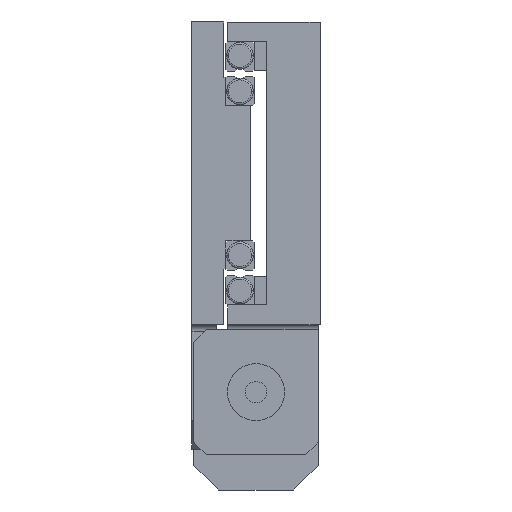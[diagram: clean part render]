
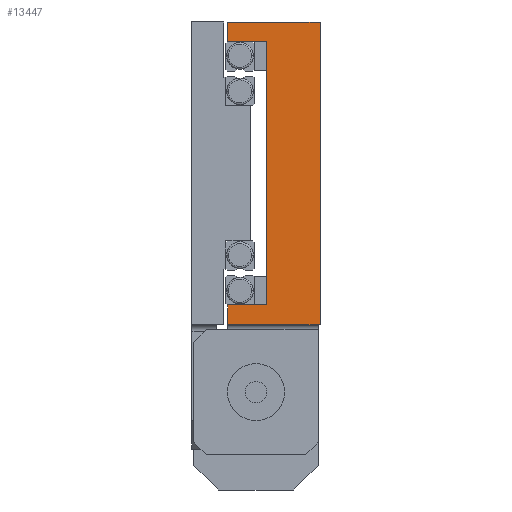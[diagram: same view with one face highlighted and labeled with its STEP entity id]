
A CAD part, left-side view. The second image highlights one B-rep face of the part: STEP entity #13447.
In plain terms, the highlighted planar face has unit normal (-1, 0, 0).
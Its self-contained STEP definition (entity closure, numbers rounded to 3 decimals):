
#642 = CARTESIAN_POINT ( 'NONE',  ( -177.5, 18.5, -37. ) ) ;
#782 = DIRECTION ( 'NONE',  ( 1., 0., 0. ) ) ;
#1087 = DIRECTION ( 'NONE',  ( 0., 1., 0. ) ) ;
#1136 = ORIENTED_EDGE ( 'NONE', *, *, #10215, .F. ) ;
#1220 = VECTOR ( 'NONE', #8872, 1000. ) ;
#1602 = CARTESIAN_POINT ( 'NONE',  ( -177.5, 18.5, 37. ) ) ;
#1604 = ORIENTED_EDGE ( 'NONE', *, *, #16335, .F. ) ;
#1619 = VERTEX_POINT ( 'NONE', #3015 ) ;
#2497 = LINE ( 'NONE', #642, #23251 ) ;
#2623 = FACE_OUTER_BOUND ( 'NONE', #13992, .T. ) ;
#2933 = LINE ( 'NONE', #12683, #6353 ) ;
#2942 = CARTESIAN_POINT ( 'NONE',  ( -177.5, 26., 37. ) ) ;
#3015 = CARTESIAN_POINT ( 'NONE',  ( -177.5, 0., 42.5 ) ) ;
#3198 = CARTESIAN_POINT ( 'NONE',  ( -177.5, 0., 42.5 ) ) ;
#3417 = DIRECTION ( 'NONE',  ( 0., 0., 1. ) ) ;
#4394 = VECTOR ( 'NONE', #21723, 1000. ) ;
#4806 = EDGE_CURVE ( 'NONE', #21599, #19144, #19644, .T. ) ;
#4971 = ORIENTED_EDGE ( 'NONE', *, *, #24276, .T. ) ;
#5980 = VECTOR ( 'NONE', #3417, 1000. ) ;
#6353 = VECTOR ( 'NONE', #1087, 1000. ) ;
#7487 = EDGE_CURVE ( 'NONE', #19166, #23849, #2933, .T. ) ;
#7771 = CARTESIAN_POINT ( 'NONE',  ( -177.5, 15., -29. ) ) ;
#7943 = CARTESIAN_POINT ( 'NONE',  ( -177.5, 26., 42.5 ) ) ;
#8073 = EDGE_CURVE ( 'NONE', #19144, #1619, #18125, .T. ) ;
#8168 = DIRECTION ( 'NONE',  ( 0., 0., -1. ) ) ;
#8566 = LINE ( 'NONE', #18017, #4394 ) ;
#8677 = CARTESIAN_POINT ( 'NONE',  ( -177.5, 26., 42.5 ) ) ;
#8743 = ORIENTED_EDGE ( 'NONE', *, *, #9090, .T. ) ;
#8766 = CARTESIAN_POINT ( 'NONE',  ( -177.5, 15., -37. ) ) ;
#8872 = DIRECTION ( 'NONE',  ( 0., 1., 0. ) ) ;
#9090 = EDGE_CURVE ( 'NONE', #19166, #1619, #14854, .T. ) ;
#9921 = PLANE ( 'NONE',  #23489 ) ;
#10215 = EDGE_CURVE ( 'NONE', #15164, #21599, #16328, .T. ) ;
#10946 = CARTESIAN_POINT ( 'NONE',  ( -177.5, 26., 42.5 ) ) ;
#12683 = CARTESIAN_POINT ( 'NONE',  ( -177.5, 0., -42.5 ) ) ;
#13206 = DIRECTION ( 'NONE',  ( 0., 0., 1. ) ) ;
#13447 = ADVANCED_FACE ( 'NONE', ( #2623 ), #9921, .F. ) ;
#13967 = CARTESIAN_POINT ( 'NONE',  ( -177.5, 26., -42.5 ) ) ;
#13992 = EDGE_LOOP ( 'NONE', ( #15437, #4971, #1604, #21464, #8743, #23713, #21129, #1136 ) ) ;
#14854 = LINE ( 'NONE', #3198, #21705 ) ;
#15164 = VERTEX_POINT ( 'NONE', #23695 ) ;
#15437 = ORIENTED_EDGE ( 'NONE', *, *, #16963, .F. ) ;
#16328 = LINE ( 'NONE', #1602, #1220 ) ;
#16335 = EDGE_CURVE ( 'NONE', #23849, #19553, #8566, .T. ) ;
#16851 = CARTESIAN_POINT ( 'NONE',  ( -177.5, 26., 42.5 ) ) ;
#16963 = EDGE_CURVE ( 'NONE', #19313, #15164, #16985, .T. ) ;
#16985 = LINE ( 'NONE', #7771, #21001 ) ;
#17451 = CARTESIAN_POINT ( 'NONE',  ( -177.5, 0., -42.5 ) ) ;
#18017 = CARTESIAN_POINT ( 'NONE',  ( -177.5, 26., 42.5 ) ) ;
#18110 = VECTOR ( 'NONE', #19720, 1000. ) ;
#18125 = LINE ( 'NONE', #8677, #18110 ) ;
#19144 = VERTEX_POINT ( 'NONE', #16851 ) ;
#19166 = VERTEX_POINT ( 'NONE', #17451 ) ;
#19313 = VERTEX_POINT ( 'NONE', #8766 ) ;
#19450 = DIRECTION ( 'NONE',  ( 0., 1., 0. ) ) ;
#19553 = VERTEX_POINT ( 'NONE', #20141 ) ;
#19644 = LINE ( 'NONE', #10946, #5980 ) ;
#19720 = DIRECTION ( 'NONE',  ( 0., -1., 0. ) ) ;
#20141 = CARTESIAN_POINT ( 'NONE',  ( -177.5, 26., -37. ) ) ;
#21001 = VECTOR ( 'NONE', #13206, 1000. ) ;
#21129 = ORIENTED_EDGE ( 'NONE', *, *, #4806, .F. ) ;
#21464 = ORIENTED_EDGE ( 'NONE', *, *, #7487, .F. ) ;
#21599 = VERTEX_POINT ( 'NONE', #2942 ) ;
#21705 = VECTOR ( 'NONE', #22369, 1000. ) ;
#21723 = DIRECTION ( 'NONE',  ( 0., 0., 1. ) ) ;
#22369 = DIRECTION ( 'NONE',  ( 0., 0., 1. ) ) ;
#23251 = VECTOR ( 'NONE', #19450, 1000. ) ;
#23489 = AXIS2_PLACEMENT_3D ( 'NONE', #7943, #782, #8168 ) ;
#23695 = CARTESIAN_POINT ( 'NONE',  ( -177.5, 15., 37. ) ) ;
#23713 = ORIENTED_EDGE ( 'NONE', *, *, #8073, .F. ) ;
#23849 = VERTEX_POINT ( 'NONE', #13967 ) ;
#24276 = EDGE_CURVE ( 'NONE', #19313, #19553, #2497, .T. ) ;
